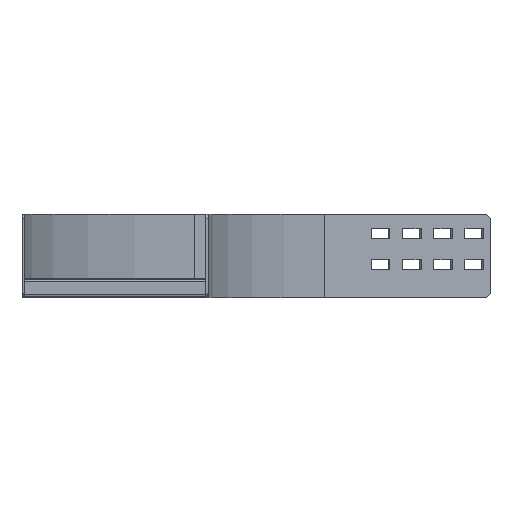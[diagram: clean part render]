
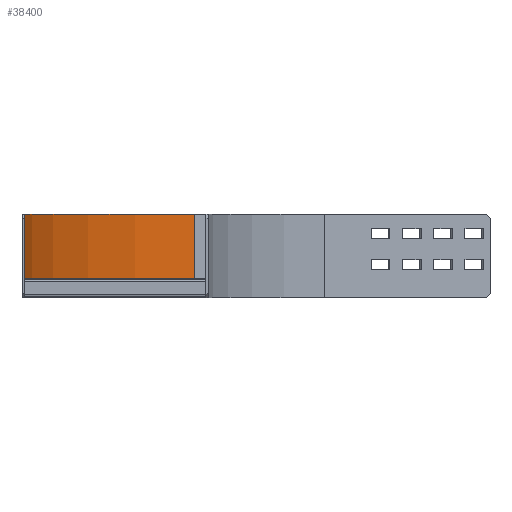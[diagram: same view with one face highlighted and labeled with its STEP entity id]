
A CAD part, left-side view. The second image highlights one B-rep face of the part: STEP entity #38400.
In plain terms, the highlighted cylindrical face has radius 655 mm (diameter 1310 mm), a partial arc.
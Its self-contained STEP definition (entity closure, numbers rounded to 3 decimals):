
#31230=CARTESIAN_POINT('',(0.,401.,-50.))
;
#31240=VERTEX_POINT('',#31230);
#31270=CARTESIAN_POINT('',(0.,401.,-50.))
;
#31280=DIRECTION('',(0.,0.,1.));
#31290=VECTOR('',#31280,1.);
#31300=LINE('',#31270,#31290);
#31310=CARTESIAN_POINT('',(0.,401.,-145.));
#31320=VERTEX_POINT('',#31310);
#31330=EDGE_CURVE('',#31320,#31240,#31300,.T.);
#36280=CARTESIAN_POINT('',(0.,-254.,-145.));
#36290=DIRECTION('',(0.,0.,1.));
#36300=DIRECTION('',(-0.707,-0.707,0.));
#36310=AXIS2_PLACEMENT_3D('',#36280,#36290,#36300);
#36320=CIRCLE('',#36310,655.);
#36330=CARTESIAN_POINT('',(463.155,209.155,-145.));
#36340=VERTEX_POINT('',#36330);
#36350=EDGE_CURVE('',#36340,#31320,#36320,.T.);
#37980=CARTESIAN_POINT('',(463.155,209.155,
-50.));
#37990=VERTEX_POINT('',#37980);
#38020=CARTESIAN_POINT('',(0.,-254.,-50.)
);
#38030=DIRECTION('',(0.,0.,1.));
#38040=DIRECTION('',(-0.707,-0.707,0.));
#38050=AXIS2_PLACEMENT_3D('',#38020,#38030,#38040);
#38060=CIRCLE('',#38050,655.);
#38070=EDGE_CURVE('',#37990,#31240,#38060,.T.);
#38240=CARTESIAN_POINT('',(0.,-254.,-50.)
);
#38250=DIRECTION('',(0.,0.,1.));
#38260=DIRECTION('',(-0.707,-0.707,0.));
#38270=AXIS2_PLACEMENT_3D('',#38240,#38250,#38260);
#38280=CYLINDRICAL_SURFACE('',#38270,655.);
#38290=CARTESIAN_POINT('',(463.155,209.155,0.));
#38300=DIRECTION('',(0.,0.,-1.));
#38310=VECTOR('',#38300,1.);
#38320=LINE('',#38290,#38310);
#38330=EDGE_CURVE('',#37990,#36340,#38320,.T.);
#38340=ORIENTED_EDGE('',*,*,#38330,.F.);
#38350=ORIENTED_EDGE('',*,*,#36350,.F.);
#38360=ORIENTED_EDGE('',*,*,#31330,.F.);
#38370=ORIENTED_EDGE('',*,*,#38070,.T.);
#38380=EDGE_LOOP('',(#38370,#38360,#38350,#38340));
#38390=FACE_OUTER_BOUND('',#38380,.T.);
#38400=ADVANCED_FACE('',(#38390),#38280,.F.);
